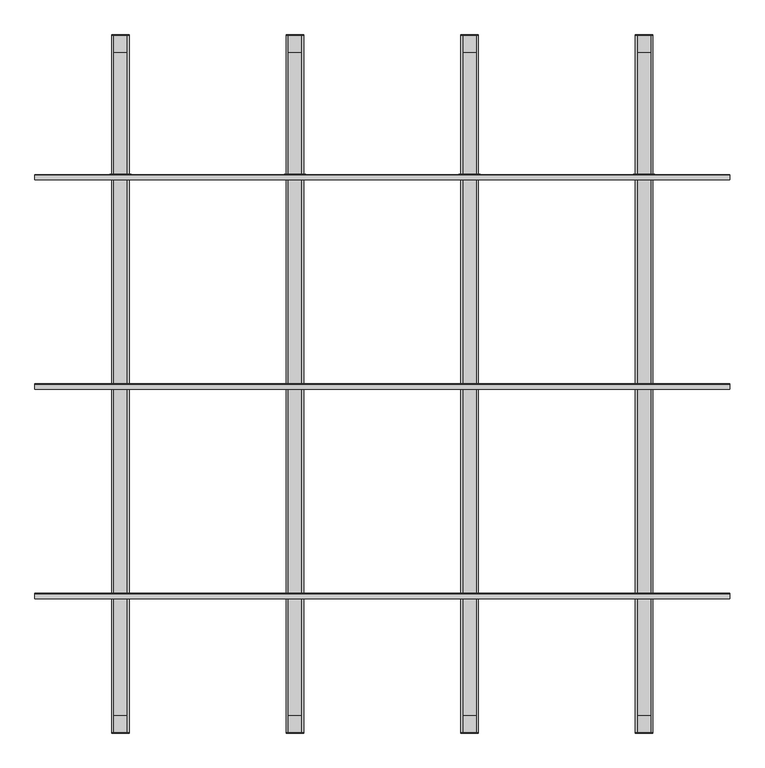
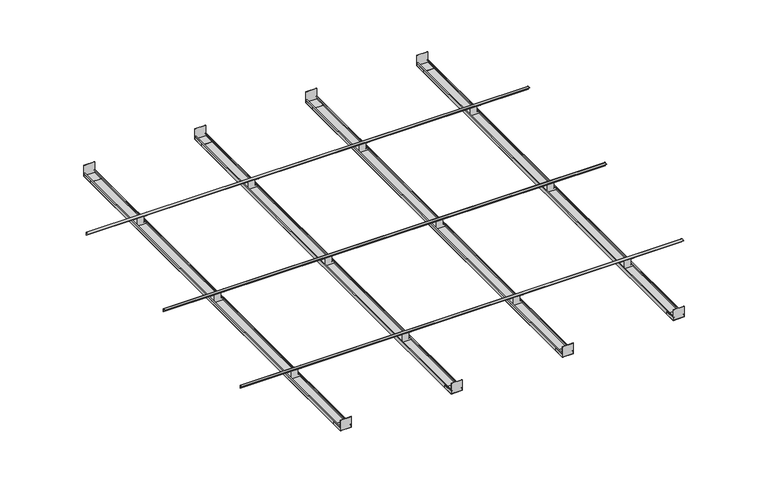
"""IFC4 building model written with IfcOpenShell, lengths in millimetres: proxy geometry, durlum_S5-100_RHOMBOS : durlum_S5-100_RHOMBOS."""

from ifc_helpers import new_model, si_unit, point, frame, frame_2d, origin, place, context, project, spatial, polyline, circle_curve, trimmed, segment, composite_curve, outline, extrude, source, transform, mapped, element, save


def generic_models_91318ce9(model_context):
    return source(origin(), model_context, "Body", "SweptSolid", [
        extrude(outline(polyline([(548.7946553, 1900.0), (548.7946553, 1998.75), (550.0446553, 1998.75), (550.0446553, 1900.0), (548.7946553, 1900.0)])), frame((0.0, 0.0, 3801.4968409), z_axis=(0.0, 0.0, 1.0), x_axis=(1.0, 0.0, 0.0)), (0.0, 0.0, 1.0), 22.9482224),
        extrude(outline(polyline([(451.2053447, 1900.0), (449.9553447, 1900.0), (449.9553447, 1998.75), (451.2053447, 1998.75), (451.2053447, 1900.0)])), frame((0.0, 0.0, 3801.4968409), z_axis=(0.0, 0.0, 1.0), x_axis=(1.0, 0.0, 0.0)), (0.0, 0.0, 1.0), 22.9482224),
        extrude(outline(polyline([(2000.0, 3801.4968409), (1900.0, 3801.4968409), (1900.0, 3802.7468409), (1998.75, 3802.7468409), (1998.75, 3901.4968409), (2000.0, 3901.4968409), (2000.0, 3801.4968409)])), frame((451.2053447, 0.0, 0.0), z_axis=(1.0, 0.0, 0.0), x_axis=(0.0, 1.0, 0.0)), (0.0, 0.0, 1.0), 97.5893106),
        extrude(outline(polyline([(-451.2053447, 1900.0), (-451.2053447, 1998.75), (-449.9553447, 1998.75), (-449.9553447, 1900.0), (-451.2053447, 1900.0)])), frame((0.0, 0.0, 3801.4984205), z_axis=(0.0, 0.0, 1.0), x_axis=(1.0, 0.0, 0.0)), (0.0, 0.0, 1.0), 22.9482224),
        extrude(outline(polyline([(-548.7946553, 1900.0), (-550.0446553, 1900.0), (-550.0446553, 1998.75), (-548.7946553, 1998.75), (-548.7946553, 1900.0)])), frame((0.0, 0.0, 3801.4984205), z_axis=(0.0, 0.0, 1.0), x_axis=(1.0, 0.0, 0.0)), (0.0, 0.0, 1.0), 22.9482224),
        extrude(outline(polyline([(2000.0, 3801.4984205), (1900.0, 3801.4984205), (1900.0, 3802.7484205), (1998.75, 3802.7484205), (1998.75, 3901.4984205), (2000.0, 3901.4984205), (2000.0, 3801.4984205)])), frame((-548.7946553, 0.0, 0.0), z_axis=(1.0, 0.0, 0.0), x_axis=(0.0, 1.0, 0.0)), (0.0, 0.0, 1.0), 97.5893106),
        extrude(outline(polyline([(451.2053447, -1900.0), (451.2053447, -1998.75), (449.9553447, -1998.75), (449.9553447, -1900.0), (451.2053447, -1900.0)])), frame((0.0, 0.0, 3801.4975378), z_axis=(0.0, 0.0, 1.0), x_axis=(1.0, 0.0, 0.0)), (0.0, 0.0, 1.0), 22.9482224),
        extrude(outline(polyline([(548.7946553, -1900.0), (550.0446553, -1900.0), (550.0446553, -1998.75), (548.7946553, -1998.75), (548.7946553, -1900.0)])), frame((0.0, 0.0, 3801.4975378), z_axis=(0.0, 0.0, 1.0), x_axis=(1.0, 0.0, 0.0)), (0.0, 0.0, 1.0), 22.9482224),
        extrude(outline(polyline([(-2000.0, 3801.4975378), (-2000.0, 3901.4975378), (-1998.75, 3901.4975378), (-1998.75, 3802.7475378), (-1900.0, 3802.7475378), (-1900.0, 3801.4975378), (-2000.0, 3801.4975378)])), frame((451.2053447, 0.0, 0.0), z_axis=(1.0, 0.0, 0.0), x_axis=(0.0, 1.0, 0.0)), (0.0, 0.0, 1.0), 97.5893106),
        extrude(outline(polyline([(-548.7946553, -1900.0), (-548.7946553, -1998.75), (-550.0446553, -1998.75), (-550.0446553, -1900.0), (-548.7946553, -1900.0)])), frame((0.0, 0.0, 3801.4987689), z_axis=(0.0, 0.0, 1.0), x_axis=(1.0, 0.0, 0.0)), (0.0, 0.0, 1.0), 22.9482224),
        extrude(outline(polyline([(-451.2053447, -1900.0), (-449.9553447, -1900.0), (-449.9553447, -1998.75), (-451.2053447, -1998.75), (-451.2053447, -1900.0)])), frame((0.0, 0.0, 3801.4987689), z_axis=(0.0, 0.0, 1.0), x_axis=(1.0, 0.0, 0.0)), (0.0, 0.0, 1.0), 22.9482224),
        extrude(outline(polyline([(-2000.0, 3801.4987689), (-2000.0, 3901.4987689), (-1998.75, 3901.4987689), (-1998.75, 3802.7487689), (-1900.0, 3802.7487689), (-1900.0, 3801.4987689), (-2000.0, 3801.4987689)])), frame((-548.7946553, 0.0, 0.0), z_axis=(1.0, 0.0, 0.0), x_axis=(0.0, 1.0, 0.0)), (0.0, 0.0, 1.0), 97.5893106),
        extrude(outline(polyline([(1451.2053447, -1900.0), (1451.2053447, -1998.75), (1449.9553447, -1998.75), (1449.9553447, -1900.0), (1451.2053447, -1900.0)])), frame((0.0, 0.0, 3801.4963067), z_axis=(0.0, 0.0, 1.0), x_axis=(1.0, 0.0, 0.0)), (0.0, 0.0, 1.0), 22.9482224),
        extrude(outline(polyline([(1548.7946553, -1900.0), (1550.0446553, -1900.0), (1550.0446553, -1998.75), (1548.7946553, -1998.75), (1548.7946553, -1900.0)])), frame((0.0, 0.0, 3801.4963067), z_axis=(0.0, 0.0, 1.0), x_axis=(1.0, 0.0, 0.0)), (0.0, 0.0, 1.0), 22.9482224),
        extrude(outline(polyline([(-2000.0, 3801.4963067), (-2000.0, 3901.4963067), (-1998.75, 3901.4963067), (-1998.75, 3802.7463067), (-1900.0, 3802.7463067), (-1900.0, 3801.4963067), (-2000.0, 3801.4963067)])), frame((1451.2053447, 0.0, 0.0), z_axis=(1.0, 0.0, 0.0), x_axis=(0.0, 1.0, 0.0)), (0.0, 0.0, 1.0), 97.5893106),
        extrude(outline(polyline([(1548.7946553, 1900.0), (1548.7946553, 1998.75), (1550.0446553, 1998.75), (1550.0446553, 1900.0), (1548.7946553, 1900.0)])), frame((0.0, 0.0, 3801.4952614), z_axis=(0.0, 0.0, 1.0), x_axis=(1.0, 0.0, 0.0)), (0.0, 0.0, 1.0), 22.9482224),
        extrude(outline(polyline([(1451.2053447, 1900.0), (1449.9553447, 1900.0), (1449.9553447, 1998.75), (1451.2053447, 1998.75), (1451.2053447, 1900.0)])), frame((0.0, 0.0, 3801.4952614), z_axis=(0.0, 0.0, 1.0), x_axis=(1.0, 0.0, 0.0)), (0.0, 0.0, 1.0), 22.9482224),
        extrude(outline(polyline([(2000.0, 3801.4952614), (1900.0, 3801.4952614), (1900.0, 3802.7452614), (1998.75, 3802.7452614), (1998.75, 3901.4952614), (2000.0, 3901.4952614), (2000.0, 3801.4952614)])), frame((1451.2053447, 0.0, 0.0), z_axis=(1.0, 0.0, 0.0), x_axis=(0.0, 1.0, 0.0)), (0.0, 0.0, 1.0), 97.5893106),
        extrude(outline(polyline([(-1548.7946553, -1900.0), (-1548.7946553, -1998.75), (-1550.0446553, -1998.75), (-1550.0446553, -1900.0), (-1548.7946553, -1900.0)])), frame((0.0, 0.0, 3801.5), z_axis=(0.0, 0.0, 1.0), x_axis=(1.0, 0.0, 0.0)), (0.0, 0.0, 1.0), 22.9482224),
        extrude(outline(polyline([(-1451.2053447, -1900.0), (-1449.9553447, -1900.0), (-1449.9553447, -1998.75), (-1451.2053447, -1998.75), (-1451.2053447, -1900.0)])), frame((0.0, 0.0, 3801.5), z_axis=(0.0, 0.0, 1.0), x_axis=(1.0, 0.0, 0.0)), (0.0, 0.0, 1.0), 22.9482224),
        extrude(outline(polyline([(-2000.0, 3801.5), (-2000.0, 3901.5), (-1998.75, 3901.5), (-1998.75, 3802.75), (-1900.0, 3802.75), (-1900.0, 3801.5), (-2000.0, 3801.5)])), frame((-1548.7946553, 0.0, 0.0), z_axis=(1.0, 0.0, 0.0), x_axis=(0.0, 1.0, 0.0)), (0.0, 0.0, 1.0), 97.5893106),
        extrude(outline(polyline([(-1451.2053447, 1900.0), (-1451.2053447, 1998.75), (-1449.9553447, 1998.75), (-1449.9553447, 1900.0), (-1451.2053447, 1900.0)])), frame((0.0, 0.0, 3801.5), z_axis=(0.0, 0.0, 1.0), x_axis=(1.0, 0.0, 0.0)), (0.0, 0.0, 1.0), 22.9482224),
        extrude(outline(polyline([(-1548.7946553, 1900.0), (-1550.0446553, 1900.0), (-1550.0446553, 1998.75), (-1548.7946553, 1998.75), (-1548.7946553, 1900.0)])), frame((0.0, 0.0, 3801.5), z_axis=(0.0, 0.0, 1.0), x_axis=(1.0, 0.0, 0.0)), (0.0, 0.0, 1.0), 22.9482224),
        extrude(outline(polyline([(2000.0, 3801.5), (1900.0, 3801.5), (1900.0, 3802.75), (1998.75, 3802.75), (1998.75, 3901.5), (2000.0, 3901.5), (2000.0, 3801.5)])), frame((-1548.7946553, 0.0, 0.0), z_axis=(1.0, 0.0, 0.0), x_axis=(0.0, 1.0, 0.0)), (0.0, 0.0, 1.0), 97.5893106),
        extrude(outline(polyline([(3825.0, -451.7190114), (3825.0, -453.1717956), (3820.9590465, -453.1717956), (3820.9590465, -471.9750683), (3872.9865783, -471.9750683), (3872.9865783, -437.653609), (3900.0, -437.653609), (3900.0, -562.346391), (3872.9865783, -562.346391), (3872.9865783, -528.0249317), (3820.9590465, -528.0249317), (3820.9590465, -546.8282044), (3825.0, -546.8282044), (3825.0, -548.2809886), (3800.0, -548.2809886), (3800.0, -451.7190114), (3825.0, -451.7190114)])), frame((0.0, 0.0, 0.0), z_axis=(0.0, 1.0, 0.0), x_axis=(0.0, 0.0, 1.0)), (0.0, 0.0, 1.0), 1.9953756),
        extrude(outline(polyline([(3825.0, 548.2809886), (3825.0, 546.8282044), (3820.9590465, 546.8282044), (3820.9590465, 528.0249317), (3872.9865783, 528.0249317), (3872.9865783, 562.346391), (3900.0, 562.346391), (3900.0, 437.653609), (3872.9865783, 437.653609), (3872.9865783, 471.9750683), (3820.9590465, 471.9750683), (3820.9590465, 453.1717956), (3825.0, 453.1717956), (3825.0, 451.7190114), (3800.0, 451.7190114), (3800.0, 548.2809886), (3825.0, 548.2809886)])), frame((0.0, 0.0, 0.0), z_axis=(0.0, 1.0, 0.0), x_axis=(0.0, 0.0, 1.0)), (0.0, 0.0, 1.0), 1.9953756),
        extrude(outline(polyline([(3825.0, -1451.7190114), (3825.0, -1453.1717956), (3820.9590465, -1453.1717956), (3820.9590465, -1471.9750683), (3872.9865783, -1471.9750683), (3872.9865783, -1437.653609), (3900.0, -1437.653609), (3900.0, -1562.346391), (3872.9865783, -1562.346391), (3872.9865783, -1528.0249317), (3820.9590465, -1528.0249317), (3820.9590465, -1546.8282044), (3825.0, -1546.8282044), (3825.0, -1548.2809886), (3800.0, -1548.2809886), (3800.0, -1451.7190114), (3825.0, -1451.7190114)])), frame((0.0, 0.0, 0.0), z_axis=(0.0, 1.0, 0.0), x_axis=(0.0, 0.0, 1.0)), (0.0, 0.0, 1.0), 1.9953756),
        extrude(outline(polyline([(3825.0, 1548.2809886), (3825.0, 1546.8282044), (3820.9590465, 1546.8282044), (3820.9590465, 1528.0249317), (3872.9865783, 1528.0249317), (3872.9865783, 1562.346391), (3900.0, 1562.346391), (3900.0, 1437.653609), (3872.9865783, 1437.653609), (3872.9865783, 1471.9750683), (3820.9590465, 1471.9750683), (3820.9590465, 1453.1717956), (3825.0, 1453.1717956), (3825.0, 1451.7190114), (3800.0, 1451.7190114), (3800.0, 1548.2809886), (3825.0, 1548.2809886)])), frame((0.0, 0.0, 0.0), z_axis=(0.0, 1.0, 0.0), x_axis=(0.0, 0.0, 1.0)), (0.0, 0.0, 1.0), 1.9953756),
        extrude(outline(composite_curve([segment(polyline([(-2.0, 3876.1), (-2.0, 3902.0)]), True, "CONTINUOUS"), segment(trimmed(circle_curve(frame_2d((-4.0, 3902.0)), 2.0), [point((-2.0, 3902.0))], [point((-4.0, 3904.0))], True, "CARTESIAN"), True, "CONTINUOUS"), segment(polyline([(-4.0, 3904.0), (-29.9, 3904.0), (-29.9, 3906.0), (-4.0, 3906.0)]), True, "CONTINUOUS"), segment(trimmed(circle_curve(frame_2d((-4.0, 3902.0)), 4.0), [point((-4.0, 3906.0))], [point((0.0, 3902.0))], False, "CARTESIAN"), True, "CONTINUOUS"), segment(polyline([(0.0, 3902.0), (0.0, 3876.1), (-2.0, 3876.1)]), True, "CONTINUOUS")], self_intersect=False)), frame((-1990.0, 0.0, 0.0), z_axis=(1.0, 0.0, 0.0), x_axis=(0.0, 1.0, 0.0)), (0.0, 0.0, 1.0), 3980.0),
        extrude(outline(polyline([(3825.0, -451.7190114), (3825.0, -453.1717956), (3820.9590465, -453.1717956), (3820.9590465, -471.9750683), (3872.9865783, -471.9750683), (3872.9865783, -437.653609), (3900.0, -437.653609), (3900.0, -562.346391), (3872.9865783, -562.346391), (3872.9865783, -528.0249317), (3820.9590465, -528.0249317), (3820.9590465, -546.8282044), (3825.0, -546.8282044), (3825.0, -548.2809886), (3800.0, -548.2809886), (3800.0, -451.7190114), (3825.0, -451.7190114)])), frame((0.0, -1200.0, 0.0), z_axis=(0.0, 1.0, 0.0), x_axis=(0.0, 0.0, 1.0)), (0.0, 0.0, 1.0), 1.9953756),
        extrude(outline(polyline([(3825.0, 548.2809886), (3825.0, 546.8282044), (3820.9590465, 546.8282044), (3820.9590465, 528.0249317), (3872.9865783, 528.0249317), (3872.9865783, 562.346391), (3900.0, 562.346391), (3900.0, 437.653609), (3872.9865783, 437.653609), (3872.9865783, 471.9750683), (3820.9590465, 471.9750683), (3820.9590465, 453.1717956), (3825.0, 453.1717956), (3825.0, 451.7190114), (3800.0, 451.7190114), (3800.0, 548.2809886), (3825.0, 548.2809886)])), frame((0.0, -1200.0, 0.0), z_axis=(0.0, 1.0, 0.0), x_axis=(0.0, 0.0, 1.0)), (0.0, 0.0, 1.0), 1.9953756),
        extrude(outline(polyline([(3825.0, -1451.7190114), (3825.0, -1453.1717956), (3820.9590465, -1453.1717956), (3820.9590465, -1471.9750683), (3872.9865783, -1471.9750683), (3872.9865783, -1437.653609), (3900.0, -1437.653609), (3900.0, -1562.346391), (3872.9865783, -1562.346391), (3872.9865783, -1528.0249317), (3820.9590465, -1528.0249317), (3820.9590465, -1546.8282044), (3825.0, -1546.8282044), (3825.0, -1548.2809886), (3800.0, -1548.2809886), (3800.0, -1451.7190114), (3825.0, -1451.7190114)])), frame((0.0, -1200.0, 0.0), z_axis=(0.0, 1.0, 0.0), x_axis=(0.0, 0.0, 1.0)), (0.0, 0.0, 1.0), 1.9953756),
        extrude(outline(polyline([(3825.0, 1548.2809886), (3825.0, 1546.8282044), (3820.9590465, 1546.8282044), (3820.9590465, 1528.0249317), (3872.9865783, 1528.0249317), (3872.9865783, 1562.346391), (3900.0, 1562.346391), (3900.0, 1437.653609), (3872.9865783, 1437.653609), (3872.9865783, 1471.9750683), (3820.9590465, 1471.9750683), (3820.9590465, 1453.1717956), (3825.0, 1453.1717956), (3825.0, 1451.7190114), (3800.0, 1451.7190114), (3800.0, 1548.2809886), (3825.0, 1548.2809886)])), frame((0.0, -1200.0, 0.0), z_axis=(0.0, 1.0, 0.0), x_axis=(0.0, 0.0, 1.0)), (0.0, 0.0, 1.0), 1.9953756),
        extrude(outline(composite_curve([segment(polyline([(-1202.0, 3876.1), (-1202.0, 3902.0)]), True, "CONTINUOUS"), segment(trimmed(circle_curve(frame_2d((-1204.0, 3902.0)), 2.0), [point((-1202.0, 3902.0))], [point((-1204.0, 3904.0))], True, "CARTESIAN"), True, "CONTINUOUS"), segment(polyline([(-1204.0, 3904.0), (-1229.9, 3904.0), (-1229.9, 3906.0), (-1204.0, 3906.0)]), True, "CONTINUOUS"), segment(trimmed(circle_curve(frame_2d((-1204.0, 3902.0)), 4.0), [point((-1204.0, 3906.0))], [point((-1200.0, 3902.0))], False, "CARTESIAN"), True, "CONTINUOUS"), segment(polyline([(-1200.0, 3902.0), (-1200.0, 3876.1), (-1202.0, 3876.1)]), True, "CONTINUOUS")], self_intersect=False)), frame((-1990.0, 0.0, 0.0), z_axis=(1.0, 0.0, 0.0), x_axis=(0.0, 1.0, 0.0)), (0.0, 0.0, 1.0), 3980.0),
        extrude(outline(polyline([(3830.0, -550.0), (3800.0, -550.0), (3800.0, -450.0), (3830.0, -450.0), (3830.0, -460.0), (3829.0, -460.0), (3829.0, -451.0), (3801.0, -451.0), (3801.0, -549.0), (3829.0, -549.0), (3829.0, -540.0), (3830.0, -540.0), (3830.0, -550.0)])), frame((0.0, -2000.0, 0.0), z_axis=(0.0, 1.0, 0.0), x_axis=(0.0, 0.0, 1.0)), (0.0, 0.0, 1.0), 4000.0),
        extrude(outline(polyline([(3830.0, 450.0), (3800.0, 450.0), (3800.0, 550.0), (3830.0, 550.0), (3830.0, 540.0), (3829.0, 540.0), (3829.0, 549.0), (3801.0, 549.0), (3801.0, 451.0), (3829.0, 451.0), (3829.0, 460.0), (3830.0, 460.0), (3830.0, 450.0)])), frame((0.0, -2000.0, 0.0), z_axis=(0.0, 1.0, 0.0), x_axis=(0.0, 0.0, 1.0)), (0.0, 0.0, 1.0), 4000.0),
        extrude(outline(polyline([(3830.0, -1550.0), (3800.0, -1550.0), (3800.0, -1450.0), (3830.0, -1450.0), (3830.0, -1460.0), (3829.0, -1460.0), (3829.0, -1451.0), (3801.0, -1451.0), (3801.0, -1549.0), (3829.0, -1549.0), (3829.0, -1540.0), (3830.0, -1540.0), (3830.0, -1550.0)])), frame((0.0, -2000.0, 0.0), z_axis=(0.0, 1.0, 0.0), x_axis=(0.0, 0.0, 1.0)), (0.0, 0.0, 1.0), 4000.0),
        extrude(outline(polyline([(3830.0, 1450.0), (3800.0, 1450.0), (3800.0, 1550.0), (3830.0, 1550.0), (3830.0, 1540.0), (3829.0, 1540.0), (3829.0, 1549.0), (3801.0, 1549.0), (3801.0, 1451.0), (3829.0, 1451.0), (3829.0, 1460.0), (3830.0, 1460.0), (3830.0, 1450.0)])), frame((0.0, -2000.0, 0.0), z_axis=(0.0, 1.0, 0.0), x_axis=(0.0, 0.0, 1.0)), (0.0, 0.0, 1.0), 4000.0),
        extrude(outline(polyline([(3825.0, -451.7190114), (3825.0, -453.1717956), (3820.9590465, -453.1717956), (3820.9590465, -471.9750683), (3872.9865783, -471.9750683), (3872.9865783, -437.653609), (3900.0, -437.653609), (3900.0, -562.346391), (3872.9865783, -562.346391), (3872.9865783, -528.0249317), (3820.9590465, -528.0249317), (3820.9590465, -546.8282044), (3825.0, -546.8282044), (3825.0, -548.2809886), (3800.0, -548.2809886), (3800.0, -451.7190114), (3825.0, -451.7190114)])), frame((0.0, 1200.0, 0.0), z_axis=(0.0, 1.0, 0.0), x_axis=(0.0, 0.0, 1.0)), (0.0, 0.0, 1.0), 1.9953756),
        extrude(outline(polyline([(3825.0, 548.2809886), (3825.0, 546.8282044), (3820.9590465, 546.8282044), (3820.9590465, 528.0249317), (3872.9865783, 528.0249317), (3872.9865783, 562.346391), (3900.0, 562.346391), (3900.0, 437.653609), (3872.9865783, 437.653609), (3872.9865783, 471.9750683), (3820.9590465, 471.9750683), (3820.9590465, 453.1717956), (3825.0, 453.1717956), (3825.0, 451.7190114), (3800.0, 451.7190114), (3800.0, 548.2809886), (3825.0, 548.2809886)])), frame((0.0, 1200.0, 0.0), z_axis=(0.0, 1.0, 0.0), x_axis=(0.0, 0.0, 1.0)), (0.0, 0.0, 1.0), 1.9953756),
        extrude(outline(polyline([(3825.0, -1451.7190114), (3825.0, -1453.1717956), (3820.9590465, -1453.1717956), (3820.9590465, -1471.9750683), (3872.9865783, -1471.9750683), (3872.9865783, -1437.653609), (3900.0, -1437.653609), (3900.0, -1562.346391), (3872.9865783, -1562.346391), (3872.9865783, -1528.0249317), (3820.9590465, -1528.0249317), (3820.9590465, -1546.8282044), (3825.0, -1546.8282044), (3825.0, -1548.2809886), (3800.0, -1548.2809886), (3800.0, -1451.7190114), (3825.0, -1451.7190114)])), frame((0.0, 1200.0, 0.0), z_axis=(0.0, 1.0, 0.0), x_axis=(0.0, 0.0, 1.0)), (0.0, 0.0, 1.0), 1.9953756),
        extrude(outline(polyline([(3825.0, 1548.2809886), (3825.0, 1546.8282044), (3820.9590465, 1546.8282044), (3820.9590465, 1528.0249317), (3872.9865783, 1528.0249317), (3872.9865783, 1562.346391), (3900.0, 1562.346391), (3900.0, 1437.653609), (3872.9865783, 1437.653609), (3872.9865783, 1471.9750683), (3820.9590465, 1471.9750683), (3820.9590465, 1453.1717956), (3825.0, 1453.1717956), (3825.0, 1451.7190114), (3800.0, 1451.7190114), (3800.0, 1548.2809886), (3825.0, 1548.2809886)])), frame((0.0, 1200.0, 0.0), z_axis=(0.0, 1.0, 0.0), x_axis=(0.0, 0.0, 1.0)), (0.0, 0.0, 1.0), 1.9953756),
        extrude(outline(composite_curve([segment(polyline([(1198.0, 3876.1), (1198.0, 3902.0)]), True, "CONTINUOUS"), segment(trimmed(circle_curve(frame_2d((1196.0, 3902.0)), 2.0), [point((1198.0, 3902.0))], [point((1196.0, 3904.0))], True, "CARTESIAN"), True, "CONTINUOUS"), segment(polyline([(1196.0, 3904.0), (1170.1, 3904.0), (1170.1, 3906.0), (1196.0, 3906.0)]), True, "CONTINUOUS"), segment(trimmed(circle_curve(frame_2d((1196.0, 3902.0)), 4.0), [point((1196.0, 3906.0))], [point((1200.0, 3902.0))], False, "CARTESIAN"), True, "CONTINUOUS"), segment(polyline([(1200.0, 3902.0), (1200.0, 3876.1), (1198.0, 3876.1)]), True, "CONTINUOUS")], self_intersect=False)), frame((-1990.0, 0.0, 0.0), z_axis=(1.0, 0.0, 0.0), x_axis=(0.0, 1.0, 0.0)), (0.0, 0.0, 1.0), 3980.0),
    ])


if __name__ == "__main__":
    model = new_model("IFC4")
    model_context = context("Model", 3, world=origin())
    ifc_project = project(units=[si_unit("LENGTHUNIT", "METRE", prefix="MILLI")], contexts=[model_context])
    site = spatial("IfcSite", under=ifc_project)
    building = spatial("IfcBuilding", under=site)
    placement = place(None, origin())
    generic_models_shape = generic_models_91318ce9(model_context)
    element("IfcBuildingElementProxy", 1, Name="durlum_S5-100_RHOMBOS : durlum_S5-100_RHOMBOS", ObjectType="durlum_S5-100_RHOMBOS : durlum_S5-100_RHOMBOS", at=placement, inside=building, context=model_context, shape_type="MappedRepresentation", body=[
        mapped(generic_models_shape, transform((0.0, 0.0, 0.0), x_axis=(1.0, 0.0, 0.0), y_axis=(0.0, 1.0, 0.0), z_axis=(0.0, 0.0, 1.0))),
    ])
    save(model, "model.ifc")
